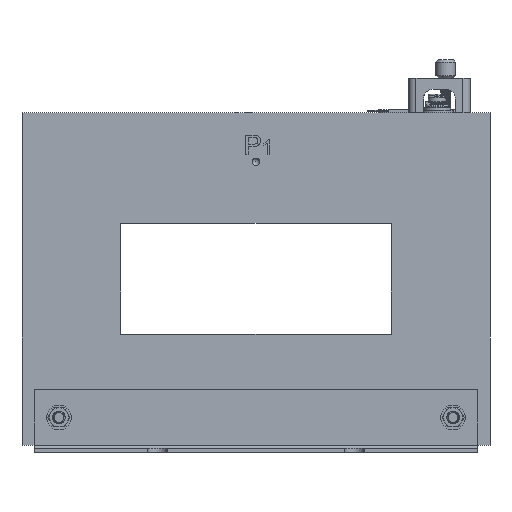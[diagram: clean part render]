
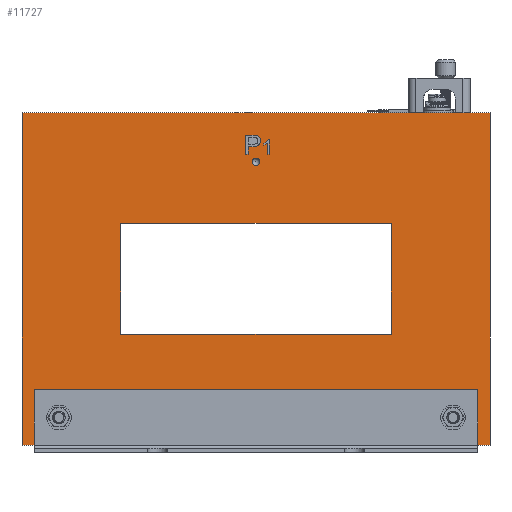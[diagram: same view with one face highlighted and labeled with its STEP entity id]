
A CAD part, left-side view. The second image highlights one B-rep face of the part: STEP entity #11727.
In plain terms, the highlighted planar face has unit normal (-1, 0, 0).
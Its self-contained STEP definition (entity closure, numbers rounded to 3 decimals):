
#298=FACE_BOUND('',#1634,.T.);
#299=FACE_BOUND('',#1635,.T.);
#300=FACE_BOUND('',#1636,.T.);
#301=FACE_BOUND('',#1637,.T.);
#440=PLANE('',#12676);
#971=FACE_OUTER_BOUND('',#1633,.T.);
#1633=EDGE_LOOP('',(#9317,#9318,#9319,#9320));
#1634=EDGE_LOOP('',(#9321,#9322,#9323,#9324));
#1635=EDGE_LOOP('',(#9325));
#1636=EDGE_LOOP('',(#9326,#9327,#9328,#9329,#9330,#9331,#9332));
#1637=EDGE_LOOP('',(#9333,#9334,#9335,#9336,#9337,#9338,#9339));
#2138=CIRCLE('',#12677,1.536);
#2632=B_SPLINE_CURVE_WITH_KNOTS('',2,(#47223,#47224,#47225,#47226),
 .UNSPECIFIED.,.F.,.F.,(3,1,3),(0.,1.,2.),.UNSPECIFIED.);
#2634=B_SPLINE_CURVE_WITH_KNOTS('',2,(#47246,#47247,#47248,#47249,#47250,
#47251),.UNSPECIFIED.,.F.,.F.,(3,1,1,1,3),(0.,1.,2.,3.,4.),
 .UNSPECIFIED.);
#2636=B_SPLINE_CURVE_WITH_KNOTS('',2,(#47286,#47287,#47288),
 .UNSPECIFIED.,.F.,.F.,(3,3),(0.,1.),.UNSPECIFIED.);
#2638=B_SPLINE_CURVE_WITH_KNOTS('',2,(#47307,#47308,#47309),
 .UNSPECIFIED.,.F.,.F.,(3,3),(0.,1.),.UNSPECIFIED.);
#3148=LINE('',#47190,#3859);
#3152=LINE('',#47198,#3863);
#3155=LINE('',#47204,#3866);
#3158=LINE('',#47210,#3869);
#3163=LINE('',#47261,#3874);
#3165=LINE('',#47267,#3876);
#3169=LINE('',#47275,#3880);
#3173=LINE('',#47296,#3884);
#3177=LINE('',#47317,#3888);
#3180=LINE('',#47322,#3891);
#3182=LINE('',#47328,#3893);
#3183=LINE('',#47330,#3894);
#3184=LINE('',#47332,#3895);
#3185=LINE('',#47333,#3896);
#3186=LINE('',#47336,#3897);
#3187=LINE('',#47338,#3898);
#3188=LINE('',#47340,#3899);
#3189=LINE('',#47341,#3900);
#3859=VECTOR('',#14842,0.394);
#3863=VECTOR('',#14848,0.394);
#3866=VECTOR('',#14853,0.394);
#3869=VECTOR('',#14858,0.394);
#3874=VECTOR('',#14865,0.394);
#3876=VECTOR('',#14871,0.394);
#3880=VECTOR('',#14877,0.394);
#3884=VECTOR('',#14883,0.394);
#3888=VECTOR('',#14889,0.394);
#3891=VECTOR('',#14894,0.394);
#3893=VECTOR('',#14900,1.);
#3894=VECTOR('',#14901,1.);
#3895=VECTOR('',#14902,1.);
#3896=VECTOR('',#14903,1.);
#3897=VECTOR('',#14904,1.);
#3898=VECTOR('',#14905,1.);
#3899=VECTOR('',#14906,1.);
#3900=VECTOR('',#14907,1.);
#4911=VERTEX_POINT('',#47188);
#4912=VERTEX_POINT('',#47189);
#4915=VERTEX_POINT('',#47197);
#4917=VERTEX_POINT('',#47203);
#4919=VERTEX_POINT('',#47209);
#4921=VERTEX_POINT('',#47222);
#4923=VERTEX_POINT('',#47245);
#4925=VERTEX_POINT('',#47265);
#4926=VERTEX_POINT('',#47266);
#4929=VERTEX_POINT('',#47274);
#4931=VERTEX_POINT('',#47285);
#4933=VERTEX_POINT('',#47295);
#4935=VERTEX_POINT('',#47306);
#4937=VERTEX_POINT('',#47316);
#4939=VERTEX_POINT('',#47326);
#4940=VERTEX_POINT('',#47327);
#4941=VERTEX_POINT('',#47329);
#4942=VERTEX_POINT('',#47331);
#4943=VERTEX_POINT('',#47334);
#4944=VERTEX_POINT('',#47335);
#4945=VERTEX_POINT('',#47337);
#4946=VERTEX_POINT('',#47339);
#4947=VERTEX_POINT('',#47342);
#6411=EDGE_CURVE('',#4911,#4912,#3148,.T.);
#6415=EDGE_CURVE('',#4915,#4911,#3152,.T.);
#6418=EDGE_CURVE('',#4917,#4915,#3155,.T.);
#6421=EDGE_CURVE('',#4919,#4917,#3158,.T.);
#6424=EDGE_CURVE('',#4921,#4919,#2632,.T.);
#6427=EDGE_CURVE('',#4923,#4921,#2634,.T.);
#6430=EDGE_CURVE('',#4912,#4923,#3163,.T.);
#6432=EDGE_CURVE('',#4925,#4926,#3165,.T.);
#6436=EDGE_CURVE('',#4929,#4925,#3169,.T.);
#6439=EDGE_CURVE('',#4931,#4929,#2636,.T.);
#6442=EDGE_CURVE('',#4933,#4931,#3173,.T.);
#6445=EDGE_CURVE('',#4935,#4933,#2638,.T.);
#6448=EDGE_CURVE('',#4937,#4935,#3177,.T.);
#6451=EDGE_CURVE('',#4926,#4937,#3180,.T.);
#6453=EDGE_CURVE('',#4939,#4940,#3182,.T.);
#6454=EDGE_CURVE('',#4941,#4939,#3183,.T.);
#6455=EDGE_CURVE('',#4942,#4941,#3184,.T.);
#6456=EDGE_CURVE('',#4940,#4942,#3185,.T.);
#6457=EDGE_CURVE('',#4943,#4944,#3186,.T.);
#6458=EDGE_CURVE('',#4944,#4945,#3187,.T.);
#6459=EDGE_CURVE('',#4945,#4946,#3188,.T.);
#6460=EDGE_CURVE('',#4946,#4943,#3189,.T.);
#6461=EDGE_CURVE('',#4947,#4947,#2138,.T.);
#9317=ORIENTED_EDGE('',*,*,#6453,.F.);
#9318=ORIENTED_EDGE('',*,*,#6454,.F.);
#9319=ORIENTED_EDGE('',*,*,#6455,.F.);
#9320=ORIENTED_EDGE('',*,*,#6456,.F.);
#9321=ORIENTED_EDGE('',*,*,#6457,.T.);
#9322=ORIENTED_EDGE('',*,*,#6458,.T.);
#9323=ORIENTED_EDGE('',*,*,#6459,.T.);
#9324=ORIENTED_EDGE('',*,*,#6460,.T.);
#9325=ORIENTED_EDGE('',*,*,#6461,.T.);
#9326=ORIENTED_EDGE('',*,*,#6432,.T.);
#9327=ORIENTED_EDGE('',*,*,#6451,.T.);
#9328=ORIENTED_EDGE('',*,*,#6448,.T.);
#9329=ORIENTED_EDGE('',*,*,#6445,.T.);
#9330=ORIENTED_EDGE('',*,*,#6442,.T.);
#9331=ORIENTED_EDGE('',*,*,#6439,.T.);
#9332=ORIENTED_EDGE('',*,*,#6436,.T.);
#9333=ORIENTED_EDGE('',*,*,#6411,.T.);
#9334=ORIENTED_EDGE('',*,*,#6430,.T.);
#9335=ORIENTED_EDGE('',*,*,#6427,.T.);
#9336=ORIENTED_EDGE('',*,*,#6424,.T.);
#9337=ORIENTED_EDGE('',*,*,#6421,.T.);
#9338=ORIENTED_EDGE('',*,*,#6418,.T.);
#9339=ORIENTED_EDGE('',*,*,#6415,.T.);
#11727=ADVANCED_FACE('',(#971,#298,#299,#300,#301),#440,.F.);
#12676=AXIS2_PLACEMENT_3D('',#47325,#14898,#14899);
#12677=AXIS2_PLACEMENT_3D('',#47343,#14908,#14909);
#14842=DIRECTION('',(0.,0.,1.));
#14848=DIRECTION('',(0.,1.,0.));
#14853=DIRECTION('',(0.,0.,-1.));
#14858=DIRECTION('',(0.,1.,0.));
#14865=DIRECTION('',(0.,-1.,0.));
#14871=DIRECTION('',(0.,0.,-1.));
#14877=DIRECTION('',(0.,-1.,0.));
#14883=DIRECTION('',(0.,0.,1.));
#14889=DIRECTION('',(0.,0.,1.));
#14894=DIRECTION('',(0.,1.,0.));
#14898=DIRECTION('center_axis',(1.,0.,0.));
#14899=DIRECTION('ref_axis',(0.,0.,-1.));
#14900=DIRECTION('',(0.,0.,-1.));
#14901=DIRECTION('',(0.,-1.,0.));
#14902=DIRECTION('',(0.,0.,1.));
#14903=DIRECTION('',(0.,1.,0.));
#14904=DIRECTION('',(0.,0.,-1.));
#14905=DIRECTION('',(0.,1.,0.));
#14906=DIRECTION('',(0.,0.,1.));
#14907=DIRECTION('',(0.,-1.,0.));
#14908=DIRECTION('center_axis',(1.,0.,0.));
#14909=DIRECTION('ref_axis',(0.,0.,-1.));
#47188=CARTESIAN_POINT('',(-55.,-2237.441,-302.925));
#47189=CARTESIAN_POINT('',(-55.,-2237.441,-295.051));
#47190=CARTESIAN_POINT('',(-55.,-2237.441,-328.194));
#47197=CARTESIAN_POINT('',(-55.,-2238.484,-302.925));
#47198=CARTESIAN_POINT('',(-55.,-2240.052,-302.925));
#47203=CARTESIAN_POINT('',(-55.,-2238.484,-299.736));
#47204=CARTESIAN_POINT('',(-55.,-2238.484,-326.6));
#47209=CARTESIAN_POINT('',(-55.,-2240.5,-299.736));
#47210=CARTESIAN_POINT('',(-55.,-2241.06,-299.736));
#47222=CARTESIAN_POINT('',(-55.,-2243.451,-297.325));
#47223=CARTESIAN_POINT('Ctrl Pts',(-55.,-2243.451,
-297.325));
#47224=CARTESIAN_POINT('Ctrl Pts',(-55.,-2243.451,
-298.419));
#47225=CARTESIAN_POINT('Ctrl Pts',(-55.,-2242.047,
-299.736));
#47226=CARTESIAN_POINT('Ctrl Pts',(-55.,-2240.5,
-299.736));
#47245=CARTESIAN_POINT('',(-55.,-2240.413,-295.051));
#47246=CARTESIAN_POINT('Ctrl Pts',(-55.,-2240.413,-295.051));
#47247=CARTESIAN_POINT('Ctrl Pts',(-55.,-2241.119,
-295.051));
#47248=CARTESIAN_POINT('Ctrl Pts',(-55.,-2242.133,-295.188));
#47249=CARTESIAN_POINT('Ctrl Pts',(-55.,-2243.004,
-295.771));
#47250=CARTESIAN_POINT('Ctrl Pts',(-55.,-2243.451,
-296.778));
#47251=CARTESIAN_POINT('Ctrl Pts',(-55.,-2243.451,
-297.325));
#47261=CARTESIAN_POINT('',(-55.,-2239.53,-295.051));
#47265=CARTESIAN_POINT('',(-55.,-2247.026,-296.987));
#47266=CARTESIAN_POINT('',(-55.,-2247.026,-302.925));
#47267=CARTESIAN_POINT('',(-55.,-2247.026,-325.225));
#47274=CARTESIAN_POINT('',(-55.,-2246.556,-296.987));
#47275=CARTESIAN_POINT('',(-55.,-2244.088,-296.987));
#47285=CARTESIAN_POINT('',(-55.,-2244.845,-298.477));
#47286=CARTESIAN_POINT('Ctrl Pts',(-55.,-2244.845,
-298.477));
#47287=CARTESIAN_POINT('Ctrl Pts',(-55.,-2246.103,
-297.878));
#47288=CARTESIAN_POINT('Ctrl Pts',(-55.,-2246.556,
-296.987));
#47295=CARTESIAN_POINT('',(-55.,-2244.845,-299.179));
#47296=CARTESIAN_POINT('',(-55.,-2244.845,-326.321));
#47306=CARTESIAN_POINT('',(-55.,-2246.303,-298.304));
#47307=CARTESIAN_POINT('Ctrl Pts',(-55.,-2246.303,
-298.304));
#47308=CARTESIAN_POINT('Ctrl Pts',(-55.,-2245.757,
-298.817));
#47309=CARTESIAN_POINT('Ctrl Pts',(-55.,-2244.845,
-299.179));
#47316=CARTESIAN_POINT('',(-55.,-2246.303,-302.925));
#47317=CARTESIAN_POINT('',(-55.,-2246.303,-328.194));
#47322=CARTESIAN_POINT('',(-55.,-2244.323,-302.925));
#47325=CARTESIAN_POINT('Origin',(-55.,-2241.62,-353.463));
#47326=CARTESIAN_POINT('',(-55.,-2336.62,-285.963));
#47327=CARTESIAN_POINT('',(-55.,-2336.62,-420.963));
#47328=CARTESIAN_POINT('',(-55.,-2336.62,-285.963));
#47329=CARTESIAN_POINT('',(-55.,-2146.62,-285.963));
#47330=CARTESIAN_POINT('',(-55.,-2146.62,-285.963));
#47331=CARTESIAN_POINT('',(-55.,-2146.62,-420.963));
#47332=CARTESIAN_POINT('',(-55.,-2146.62,-420.963));
#47333=CARTESIAN_POINT('',(-55.,-2336.62,-420.963));
#47334=CARTESIAN_POINT('',(-55.,-2296.62,-330.963));
#47335=CARTESIAN_POINT('',(-55.,-2296.62,-375.963));
#47336=CARTESIAN_POINT('',(-55.,-2296.62,-342.213));
#47337=CARTESIAN_POINT('',(-55.,-2186.62,-375.963));
#47338=CARTESIAN_POINT('',(-55.,-2269.12,-375.963));
#47339=CARTESIAN_POINT('',(-55.,-2186.62,-330.963));
#47340=CARTESIAN_POINT('',(-55.,-2186.62,-364.713));
#47341=CARTESIAN_POINT('',(-55.,-2214.12,-330.963));
#47342=CARTESIAN_POINT('',(-55.,-2240.084,-305.934));
#47343=CARTESIAN_POINT('Origin',(-55.,-2241.62,-305.934));
